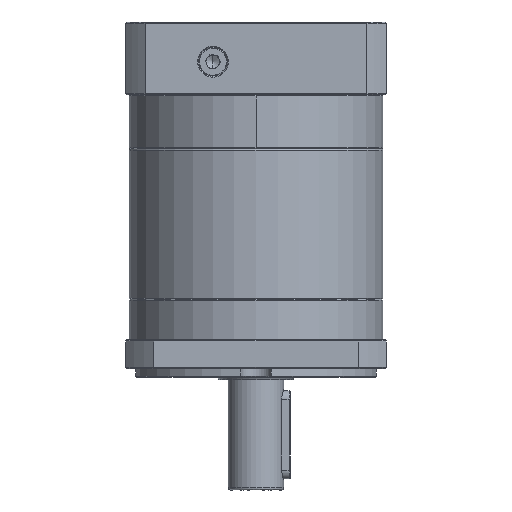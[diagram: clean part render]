
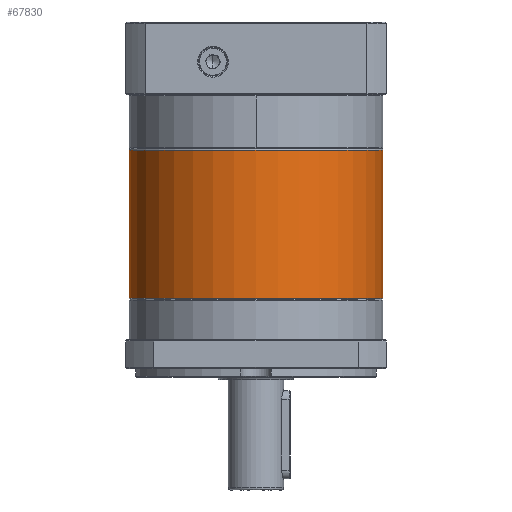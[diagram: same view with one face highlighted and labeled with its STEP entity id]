
A CAD part, front view. The second image highlights one B-rep face of the part: STEP entity #67830.
In plain terms, the highlighted cylindrical face has radius 57.5 mm (diameter 115 mm), a partial arc.
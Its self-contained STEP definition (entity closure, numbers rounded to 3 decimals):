
#2088 = ORIENTED_EDGE ( 'NONE', *, *, #19312, .T. ) ;
#3964 = AXIS2_PLACEMENT_3D ( 'NONE', #31508, #40964, #103439 ) ;
#7534 = DIRECTION ( 'NONE',  ( 0., 0., -1. ) ) ;
#12808 = EDGE_CURVE ( 'NONE', #45863, #20131, #83464, .T. ) ;
#14878 = CARTESIAN_POINT ( 'NONE',  ( 12.259, 44.19, -59.959 ) ) ;
#19312 = EDGE_CURVE ( 'NONE', #20131, #112467, #25643, .T. ) ;
#20131 = VERTEX_POINT ( 'NONE', #14878 ) ;
#25643 = LINE ( 'NONE', #85868, #123679 ) ;
#26355 = EDGE_CURVE ( 'NONE', #53358, #81951, #87413, .T. ) ;
#26847 = ORIENTED_EDGE ( 'NONE', *, *, #50913, .T. ) ;
#29219 = ORIENTED_EDGE ( 'NONE', *, *, #12808, .T. ) ;
#31508 = CARTESIAN_POINT ( 'NONE',  ( 69.759, 44.19, -59.459 ) ) ;
#34390 = VECTOR ( 'NONE', #126540, 1000. ) ;
#37447 = FACE_OUTER_BOUND ( 'NONE', #95800, .T. ) ;
#40964 = DIRECTION ( 'NONE',  ( 0., 0., -1. ) ) ;
#45863 = VERTEX_POINT ( 'NONE', #96850 ) ;
#49761 = CIRCLE ( 'NONE', #59941, 57.5 ) ;
#50913 = EDGE_CURVE ( 'NONE', #112467, #81951, #49761, .T. ) ;
#53358 = VERTEX_POINT ( 'NONE', #84309 ) ;
#55603 = DIRECTION ( 'NONE',  ( 0., 0., 1. ) ) ;
#56175 = DIRECTION ( 'NONE',  ( 0., 0., -1. ) ) ;
#59345 = DIRECTION ( 'NONE',  ( -1., 0., 0. ) ) ;
#59941 = AXIS2_PLACEMENT_3D ( 'NONE', #129203, #55603, #96985 ) ;
#65435 = CARTESIAN_POINT ( 'NONE',  ( 12.259, 44.19, -127.17 ) ) ;
#67830 = ADVANCED_FACE ( 'NONE', ( #37447 ), #95257, .T. ) ;
#79855 = DIRECTION ( 'NONE',  ( -1., 0., 0. ) ) ;
#79941 = CIRCLE ( 'NONE', #122696, 57.5 ) ;
#81835 = DIRECTION ( 'NONE',  ( 0., 0., -1. ) ) ;
#81951 = VERTEX_POINT ( 'NONE', #109351 ) ;
#83464 = CIRCLE ( 'NONE', #101403, 57.5 ) ;
#84309 = CARTESIAN_POINT ( 'NONE',  ( 127.259, 44.19, -59.959 ) ) ;
#85868 = CARTESIAN_POINT ( 'NONE',  ( 12.259, 44.19, -59.459 ) ) ;
#87413 = LINE ( 'NONE', #103765, #34390 ) ;
#95257 = CYLINDRICAL_SURFACE ( 'NONE', #3964, 57.5 ) ;
#95800 = EDGE_LOOP ( 'NONE', ( #111715, #109579, #29219, #2088, #26847 ) ) ;
#96850 = CARTESIAN_POINT ( 'NONE',  ( 69.759, -13.31, -59.959 ) ) ;
#96985 = DIRECTION ( 'NONE',  ( -1., 0., 0. ) ) ;
#101403 = AXIS2_PLACEMENT_3D ( 'NONE', #121807, #81835, #59345 ) ;
#103439 = DIRECTION ( 'NONE',  ( -1., 0., 0. ) ) ;
#103765 = CARTESIAN_POINT ( 'NONE',  ( 127.259, 44.19, -59.459 ) ) ;
#109351 = CARTESIAN_POINT ( 'NONE',  ( 127.259, 44.19, -127.17 ) ) ;
#109579 = ORIENTED_EDGE ( 'NONE', *, *, #111801, .T. ) ;
#111715 = ORIENTED_EDGE ( 'NONE', *, *, #26355, .F. ) ;
#111801 = EDGE_CURVE ( 'NONE', #53358, #45863, #79941, .T. ) ;
#112467 = VERTEX_POINT ( 'NONE', #65435 ) ;
#121807 = CARTESIAN_POINT ( 'NONE',  ( 69.759, 44.19, -59.959 ) ) ;
#122696 = AXIS2_PLACEMENT_3D ( 'NONE', #131441, #7534, #79855 ) ;
#123679 = VECTOR ( 'NONE', #56175, 1000. ) ;
#126540 = DIRECTION ( 'NONE',  ( 0., 0., -1. ) ) ;
#129203 = CARTESIAN_POINT ( 'NONE',  ( 69.759, 44.19, -127.17 ) ) ;
#131441 = CARTESIAN_POINT ( 'NONE',  ( 69.759, 44.19, -59.959 ) ) ;
